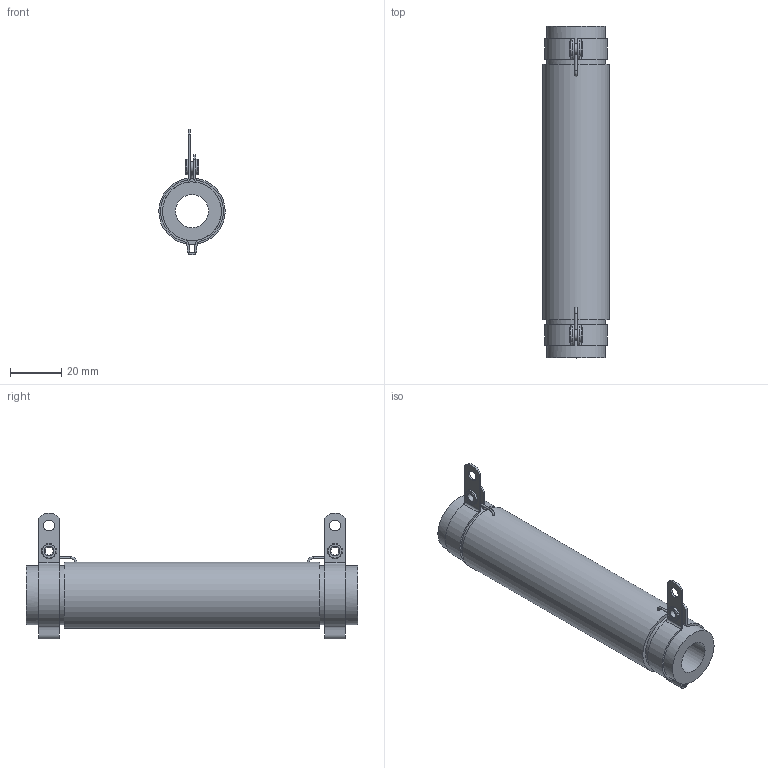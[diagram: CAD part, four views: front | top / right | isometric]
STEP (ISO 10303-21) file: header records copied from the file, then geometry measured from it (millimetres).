
FILE_DESCRIPTION(/* description */ (''),/* implementation_level */ '2;1');
FILE_NAME(/* name */ 'C:\_Vault\Dati\CATALOGO\RC-RS\TC\RS00090.stp',/* time_stamp */ '2014-01-22T17:36:18+01:00',/* author */ ('stefano'),/* organization */ (''),/* preprocessor_version */ 'ST-DEVELOPER v15.2',/* originating_system */ 'Autodesk Inventor 2014',/* authorisation */ '');
FILE_SCHEMA (('AUTOMOTIVE_DESIGN { 1 0 10303 214 3 1 1 }'));
Length unit declared in the file: millimetre
Products named in the file (1): RS00090
Bounding box: 26 x 130 x 49.26 mm (x, y, z)
Volume: 49730.6 mm3; surface area: 18527 mm2
Topology: 1 solids, 5 shells, 88 faces, 213 edges, 141 vertices
Faces by surface type: cylinder 38, plane 32, torus 10, bspline 8
Full cylindrical faces by diameter (mm): 0.4 x2, 0.8 x4, 3.2 x2, 4.2 x4, 6 x4, 13 x1, 23 x2, 26 x1
Entity records: 2989 total; most frequent: CARTESIAN_POINT 933, DIRECTION 398, ORIENTED_EDGE 340, AXIS2_PLACEMENT_3D 171, EDGE_CURVE 170, EDGE_LOOP 148, VERTEX_POINT 130, CIRCLE 90
